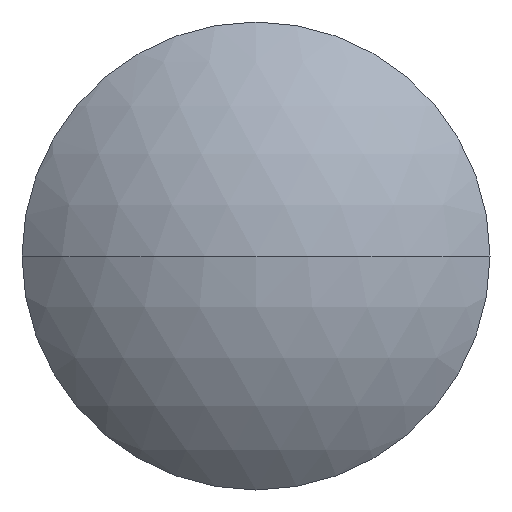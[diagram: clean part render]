
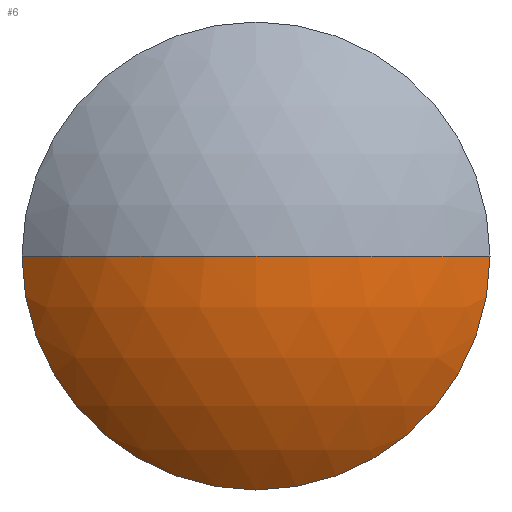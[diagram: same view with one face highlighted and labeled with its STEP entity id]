
A CAD part, left-side view. The second image highlights one B-rep face of the part: STEP entity #6.
In plain terms, the highlighted spherical face has radius 30.688 mm.
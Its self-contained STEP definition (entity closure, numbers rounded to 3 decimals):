
#4 = DIRECTION ( 'NONE',  ( 0., 0., 1. ) ) ;
#5 = CARTESIAN_POINT ( 'NONE',  ( -2.5, -21.2, 0. ) ) ;
#6 = ADVANCED_FACE ( 'NONE', ( #86 ), #238, .T. ) ;
#24 = CARTESIAN_POINT ( 'NONE',  ( 19.688, 0., 0. ) ) ;
#31 = VERTEX_POINT ( 'NONE', #5 ) ;
#35 = DIRECTION ( 'NONE',  ( 0., 0., 1. ) ) ;
#38 = DIRECTION ( 'NONE',  ( -1., 0., 0. ) ) ;
#79 = ORIENTED_EDGE ( 'NONE', *, *, #203, .T. ) ;
#86 = FACE_OUTER_BOUND ( 'NONE', #208, .T. ) ;
#94 = CIRCLE ( 'NONE', #264, 30.688 ) ;
#97 = DIRECTION ( 'NONE',  ( -1., 0., 0. ) ) ;
#101 = VERTEX_POINT ( 'NONE', #328 ) ;
#102 = VERTEX_POINT ( 'NONE', #121 ) ;
#108 = EDGE_CURVE ( 'NONE', #102, #101, #329, .T. ) ;
#121 = CARTESIAN_POINT ( 'NONE',  ( -2.5, 21.2, 0. ) ) ;
#129 = CARTESIAN_POINT ( 'NONE',  ( 19.688, 0., 0. ) ) ;
#141 = DIRECTION ( 'NONE',  ( 0., 0., 1. ) ) ;
#153 = DIRECTION ( 'NONE',  ( 0., 1., 0. ) ) ;
#159 = ORIENTED_EDGE ( 'NONE', *, *, #108, .T. ) ;
#161 = DIRECTION ( 'NONE',  ( 0., 0., -1. ) ) ;
#179 = DIRECTION ( 'NONE',  ( 0., 0., -1. ) ) ;
#183 = ORIENTED_EDGE ( 'NONE', *, *, #200, .F. ) ;
#190 = AXIS2_PLACEMENT_3D ( 'NONE', #333, #97, #141 ) ;
#197 = CARTESIAN_POINT ( 'NONE',  ( -2.5, 0., 0. ) ) ;
#200 = EDGE_CURVE ( 'NONE', #102, #294, #94, .T. ) ;
#203 = EDGE_CURVE ( 'NONE', #101, #31, #257, .T. ) ;
#208 = EDGE_LOOP ( 'NONE', ( #159, #79, #214, #183 ) ) ;
#214 = ORIENTED_EDGE ( 'NONE', *, *, #326, .T. ) ;
#221 = DIRECTION ( 'NONE',  ( 1., 0., 0. ) ) ;
#232 = DIRECTION ( 'NONE',  ( 0., 1., 0. ) ) ;
#238 = SPHERICAL_SURFACE ( 'NONE', #285, 30.688 ) ;
#246 = CIRCLE ( 'NONE', #278, 30.688 ) ;
#257 = CIRCLE ( 'NONE', #190, 21.2 ) ;
#264 = AXIS2_PLACEMENT_3D ( 'NONE', #271, #35, #221 ) ;
#271 = CARTESIAN_POINT ( 'NONE',  ( 19.688, 0., 0. ) ) ;
#278 = AXIS2_PLACEMENT_3D ( 'NONE', #129, #179, #153 ) ;
#282 = CARTESIAN_POINT ( 'NONE',  ( -11., 0., 0. ) ) ;
#285 = AXIS2_PLACEMENT_3D ( 'NONE', #24, #161, #232 ) ;
#294 = VERTEX_POINT ( 'NONE', #282 ) ;
#326 = EDGE_CURVE ( 'NONE', #31, #294, #246, .T. ) ;
#328 = CARTESIAN_POINT ( 'NONE',  ( -2.5, 0., -21.2 ) ) ;
#329 = CIRCLE ( 'NONE', #349, 21.2 ) ;
#333 = CARTESIAN_POINT ( 'NONE',  ( -2.5, 0., 0. ) ) ;
#349 = AXIS2_PLACEMENT_3D ( 'NONE', #197, #38, #4 ) ;
